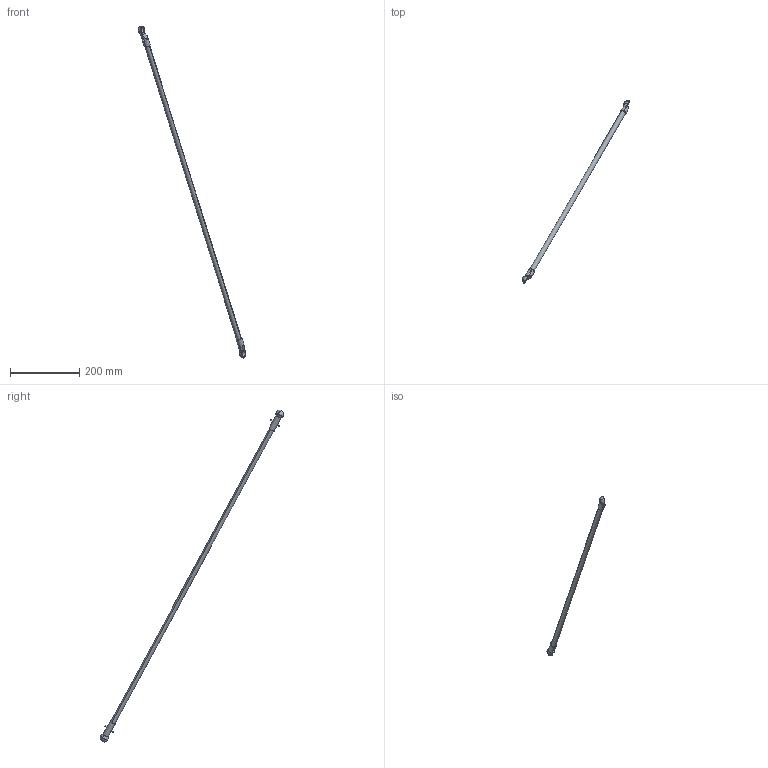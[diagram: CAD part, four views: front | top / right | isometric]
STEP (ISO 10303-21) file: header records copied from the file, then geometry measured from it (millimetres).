
FILE_DESCRIPTION (( 'STEP AP214' ), '1' );
FILE_NAME ('IRB360_X-1600-STD-4D_rev05_LA2_2_CAD.STEP', '2025-10-31T12:18:40', ( '' ), ( '' ), 'SwSTEP 2.0', 'SolidWorks 2024', '' );
FILE_SCHEMA (( 'AUTOMOTIVE_DESIGN' ));
Length unit declared in the file: millimetre
Products named in the file (1): IRB360_X-1600-STD-4D_rev05_LA2_2_CAD
Bounding box: 311.54 x 530.59 x 961.41 mm (x, y, z)
Volume: 177298.4 mm3; surface area: 51954.9 mm2
Topology: 1 solids, 1 shells, 44 faces, 114 edges, 70 vertices
Faces by surface type: cylinder 16, sphere 10, plane 10, cone 8
Entity records: 1735 total; most frequent: CARTESIAN_POINT 697, DIRECTION 220, ORIENTED_EDGE 208, EDGE_CURVE 104, AXIS2_PLACEMENT_3D 93, VERTEX_POINT 66, EDGE_LOOP 48, CIRCLE 48
